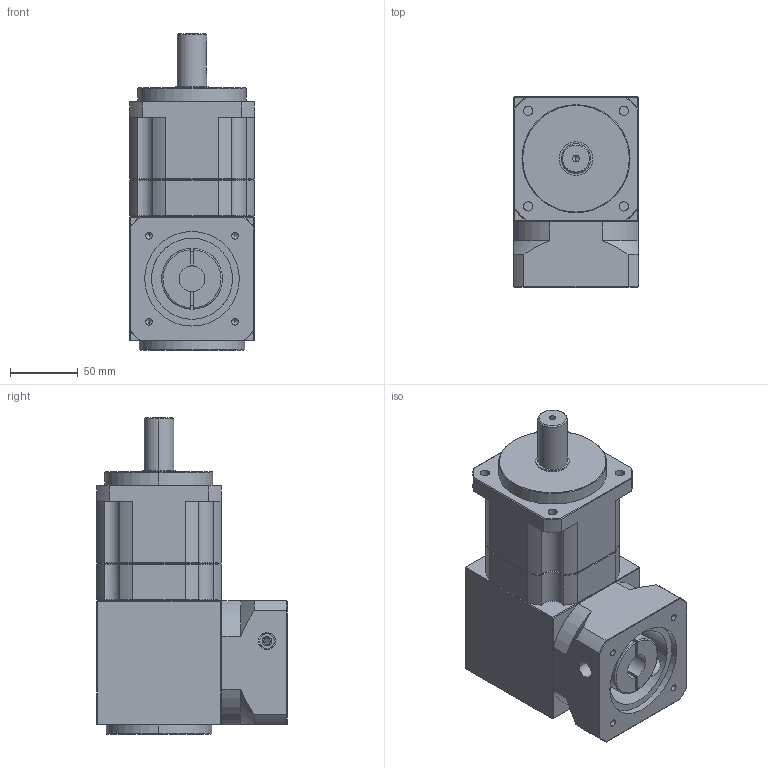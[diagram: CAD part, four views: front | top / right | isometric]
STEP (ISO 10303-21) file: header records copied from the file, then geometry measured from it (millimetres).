
FILE_DESCRIPTION (( 'STEP AP203' ), '1' );
FILE_NAME ('KHL90-L2£r70PCD£r90M6.STEP', '2014-02-24T07:20:54', ( 'KELLY' ), ( '' ), 'SwSTEP 2.0', 'SolidWorks 2012', '' );
FILE_SCHEMA (( 'CONFIG_CONTROL_DESIGN' ));
Length unit declared in the file: millimetre
Products named in the file (1): KHL90-L2｣r70PCD｣r90M6
Bounding box: 92 x 141 x 234.5 mm (x, y, z)
Volume: 1801792.4 mm3; surface area: 168240.1 mm2
Topology: 4 solids, 4 shells, 267 faces, 633 edges, 378 vertices
Faces by surface type: cylinder 95, plane 94, cone 74, torus 4
Entity records: 8307 total; most frequent: CARTESIAN_POINT 2123, DIRECTION 1304, ORIENTED_EDGE 1246, EDGE_CURVE 623, AXIS2_PLACEMENT_3D 517, VERTEX_POINT 378, EDGE_LOOP 301, LINE 270
